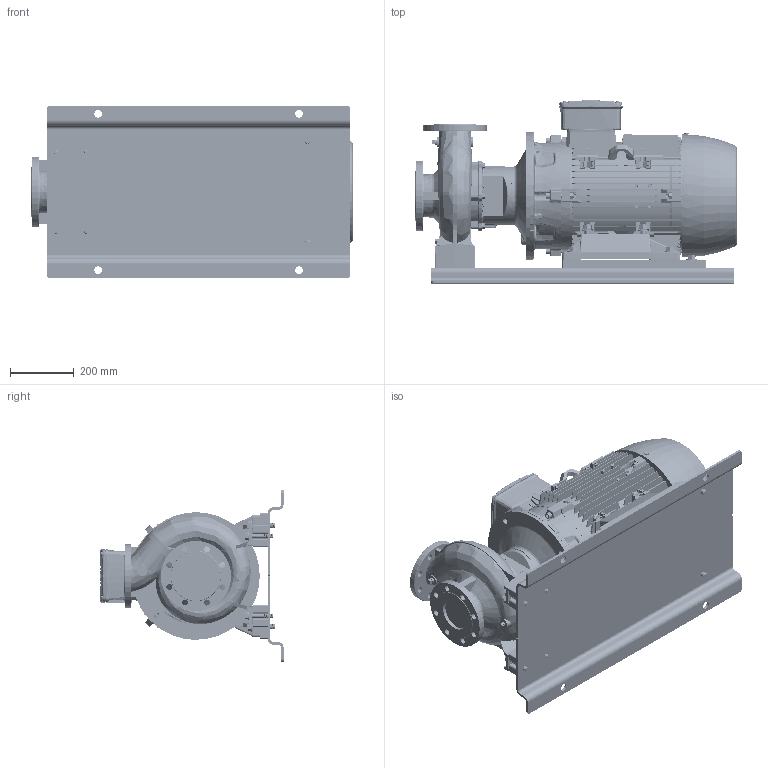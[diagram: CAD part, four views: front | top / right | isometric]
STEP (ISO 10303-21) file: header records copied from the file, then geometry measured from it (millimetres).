
FILE_DESCRIPTION (( 'STEP AP214' ), '1' );
FILE_NAME ('GSD2 80-160_30.0_(200ML)_W21_BP.STEP', '2024-08-02T02:31:23', ( '' ), ( '' ), 'SwSTEP 2.0', 'SolidWorks 2019', '' );
FILE_SCHEMA (( 'AUTOMOTIVE_DESIGN' ));
Length unit declared in the file: millimetre
Products named in the file (21): Parametric bolt and washer_SFT-A359B; Parametric Flat Washer_M16; Parametric bolt_SFT-A319B; Parametric bolt and washer_SFT-A319B; GSD2  80-160_30.0_(200ML)_W21_BP; 80-160-200M_L_______; Parametric Flat Washer_M12; Parametric bolt_SFT-A359B; CGS11-5311_2_3_4_5_CGS11-5311; 80x25 - CGSDA-5271; CGS11-5311_2_3_4_5_CGS11-5312; 200M_L ALIE3_W21T_B35; N6S2 GSDA-624 F1-1832937-00
Assembly tree (39 placements, depth 3):
  GSD2  80-160_30.0_(200ML)_W21_BP
    80-160-200M_L_______
    N6S2 GSDA-624 F1-1832937-00
    CGS11-5311_2_3_4_5_CGS11-5312  x2
    CGS11-5311_2_3_4_5_CGS11-5311  x2
    80x25 - CGSDA-5271  x2
    Parametric bolt and washer_SFT-A319B
      Parametric bolt_SFT-A319B
      Parametric Flat Washer_M12
    Parametric bolt and washer_SFT-A319B
      Parametric bolt_SFT-A319B
      Parametric Flat Washer_M12
    Parametric bolt and washer_SFT-A319B
      Parametric bolt_SFT-A319B
      Parametric Flat Washer_M12
    Parametric bolt and washer_SFT-A319B
      Parametric bolt_SFT-A319B
      Parametric Flat Washer_M12
    Parametric bolt and washer_SFT-A359B
      Parametric bolt_SFT-A359B
      Parametric Flat Washer_M16
    Parametric bolt and washer_SFT-A359B
      Parametric bolt_SFT-A359B
      Parametric Flat Washer_M16
    Parametric bolt and washer_SFT-A359B
      Parametric bolt_SFT-A359B
      Parametric Flat Washer_M16
    Parametric bolt and washer_SFT-A359B
      Parametric bolt_SFT-A359B
      Parametric Flat Washer_M16
    Parametric bolt and washer_SFT-A359B
      Parametric bolt_SFT-A359B
      Parametric Flat Washer_M16
    Parametric bolt and washer_SFT-A359B
      Parametric bolt_SFT-A359B
      Parametric Flat Washer_M16
    200M_L ALIE3_W21T_B35
Bounding box: 1008.8 x 574.5 x 540 mm (x, y, z)
Volume: 87503614.5 mm3; surface area: 5506130.6 mm2
Topology: 50 solids, 60 shells, 7288 faces, 18853 edges, 12095 vertices
Faces by surface type: plane 4245, cylinder 1311, bspline 981, cone 532, torus 215, sphere 4
Entity records: 269883 total; most frequent: CARTESIAN_POINT 113922, ORIENTED_EDGE 34688, DIRECTION 28166, EDGE_CURVE 17344, VERTEX_POINT 11183, LINE 10758, VECTOR 10758, AXIS2_PLACEMENT_3D 8704
